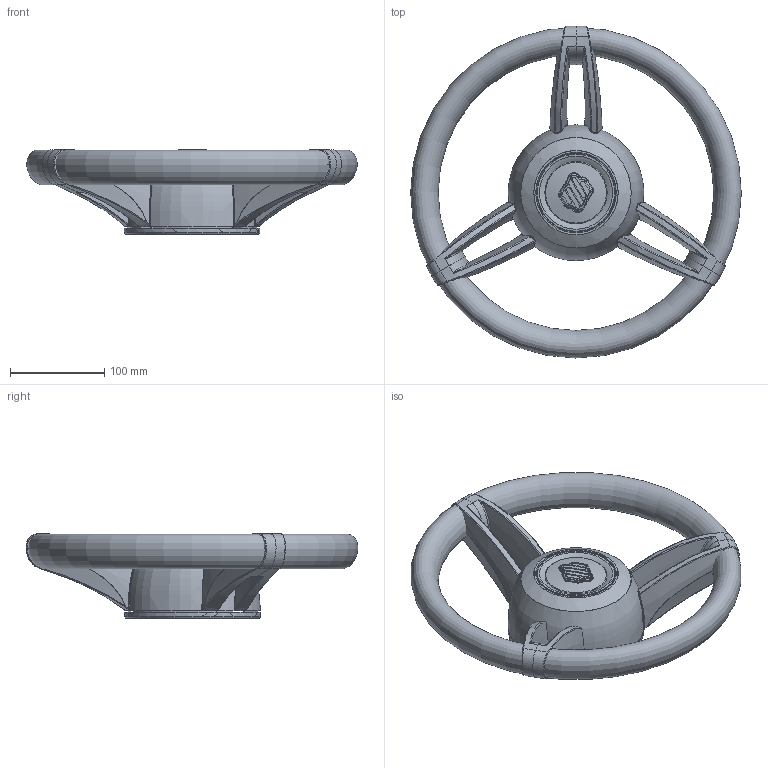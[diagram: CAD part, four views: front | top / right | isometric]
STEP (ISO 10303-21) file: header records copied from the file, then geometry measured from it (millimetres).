
FILE_DESCRIPTION((''),'2;1');
FILE_NAME('C:\Users\Milanese\Desktop\TEMPORANEA\BOCCANEGRA.stp','2013-05-09T09:37:02',('Milanese'),(''),'Autodesk Inventor 2013','Autodesk Inventor 2013','');
FILE_SCHEMA(('AUTOMOTIVE_DESIGN { 1 0 10303 214 1 1 1 1 }'));
Length unit declared in the file: millimetre
Products named in the file (10): COMPLESSIVO ASSEMBLATO BOCCANEGRA GIU 2010; 27525 MOZZO BOCCANEGRA; 27090 RAZZA VOLANTE AG; 27523 COPRIMOZZO BOCCANEGRA; Ultraflex__Volante_MG__Anello_07_05_20100; TAPPO ANTIACQUA MG-AG; 27524 PIATTELLO BOCCANEGRA; 26940 IMPUGNATURA MG (PROFILO); 27203 TARGHETTA IMBUTITA AG-MG; 27264 LENTE PER TARGHETTA DIS 27203
Assembly tree (11 placements, depth 2):
  COMPLESSIVO ASSEMBLATO BOCCANEGRA GIU 2010
    27525 MOZZO BOCCANEGRA
    27090 RAZZA VOLANTE AG  x3
    27523 COPRIMOZZO BOCCANEGRA
    Ultraflex__Volante_MG__Anello_07_05_20100
    TAPPO ANTIACQUA MG-AG
    27524 PIATTELLO BOCCANEGRA
    26940 IMPUGNATURA MG (PROFILO)
    27203 TARGHETTA IMBUTITA AG-MG
    27264 LENTE PER TARGHETTA DIS 27203
Bounding box: 350.9 x 352.34 x 89.94 mm (x, y, z)
Volume: 1752399.5 mm3; surface area: 387818.5 mm2
Topology: 11 solids, 11 shells, 1552 faces, 3963 edges, 2354 vertices
Faces by surface type: bspline 696, plane 350, cylinder 306, sphere 70, cone 69, torus 51, revolution 10
Full cylindrical faces by diameter (mm): 3 x2, 3.1 x2, 4 x3, 5.5 x3, 8.376 x3, 10 x7, 18.408 x1, 18.5 x1, 40.5 x1, 50.5 x1, 58 x1, 66 x1
Entity records: 45135 total; most frequent: CARTESIAN_POINT 21857, ORIENTED_EDGE 5020, DIRECTION 4338, EDGE_CURVE 2510, AXIS2_PLACEMENT_3D 1729, VERTEX_POINT 1598, EDGE_LOOP 1202, FACE_OUTER_BOUND 1030
